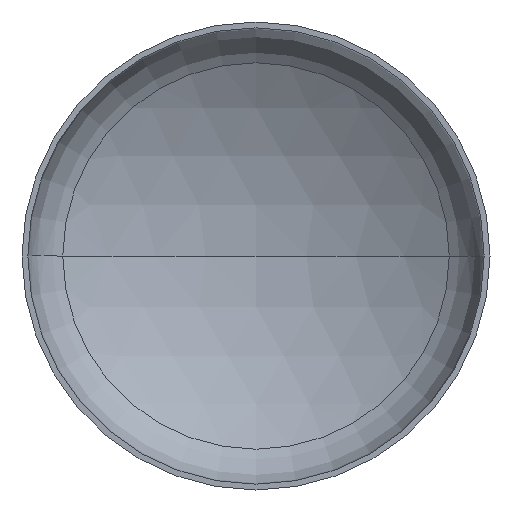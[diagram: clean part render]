
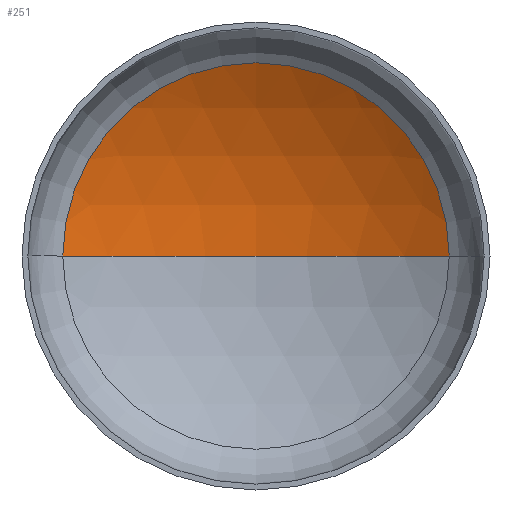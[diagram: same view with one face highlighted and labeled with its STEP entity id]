
A CAD part, front view. The second image highlights one B-rep face of the part: STEP entity #251.
In plain terms, the highlighted spherical face has radius 3600 mm.
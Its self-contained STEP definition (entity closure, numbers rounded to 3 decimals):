
#12 = AXIS2_PLACEMENT_3D ( 'NONE', #150, #244, #353 ) ;
#15 = EDGE_LOOP ( 'NONE', ( #116, #60, #44 ) ) ;
#41 = AXIS2_PLACEMENT_3D ( 'NONE', #268, #253, #237 ) ;
#44 = ORIENTED_EDGE ( 'NONE', *, *, #107, .T. ) ;
#46 = DIRECTION ( 'NONE',  ( -1., 0., 0. ) ) ;
#48 = VERTEX_POINT ( 'NONE', #350 ) ;
#49 = VERTEX_POINT ( 'NONE', #283 ) ;
#54 = AXIS2_PLACEMENT_3D ( 'NONE', #352, #58, #46 ) ;
#55 = AXIS2_PLACEMENT_3D ( 'NONE', #195, #380, #247 ) ;
#58 = DIRECTION ( 'NONE',  ( 0., 0., -1. ) ) ;
#60 = ORIENTED_EDGE ( 'NONE', *, *, #124, .T. ) ;
#87 = VERTEX_POINT ( 'NONE', #235 ) ;
#107 = EDGE_CURVE ( 'NONE', #87, #48, #209, .T. ) ;
#116 = ORIENTED_EDGE ( 'NONE', *, *, #336, .F. ) ;
#124 = EDGE_CURVE ( 'NONE', #49, #87, #145, .T. ) ;
#139 = FACE_OUTER_BOUND ( 'NONE', #15, .T. ) ;
#145 = CIRCLE ( 'NONE', #54, 3600. ) ;
#150 = CARTESIAN_POINT ( 'NONE',  ( 0., -2368.378, 0. ) ) ;
#195 = CARTESIAN_POINT ( 'NONE',  ( 0., 715.326, 0. ) ) ;
#209 = CIRCLE ( 'NONE', #55, 1857.625 ) ;
#235 = CARTESIAN_POINT ( 'NONE',  ( 1857.625, 715.326, 0. ) ) ;
#237 = DIRECTION ( 'NONE',  ( -1., 0., 0. ) ) ;
#244 = DIRECTION ( 'NONE',  ( 0., 0., 1. ) ) ;
#247 = DIRECTION ( 'NONE',  ( 1., 0., 0. ) ) ;
#251 = ADVANCED_FACE ( 'NONE', ( #139 ), #259, .F. ) ;
#253 = DIRECTION ( 'NONE',  ( 0., 0., -1. ) ) ;
#259 = SPHERICAL_SURFACE ( 'NONE', #41, 3600. ) ;
#268 = CARTESIAN_POINT ( 'NONE',  ( 0., -2368.378, 0. ) ) ;
#283 = CARTESIAN_POINT ( 'NONE',  ( 0., 1231.622, 0. ) ) ;
#336 = EDGE_CURVE ( 'NONE', #49, #48, #349, .T. ) ;
#349 = CIRCLE ( 'NONE', #12, 3600. ) ;
#350 = CARTESIAN_POINT ( 'NONE',  ( -1857.625, 715.326, 0. ) ) ;
#352 = CARTESIAN_POINT ( 'NONE',  ( 0., -2368.378, 0. ) ) ;
#353 = DIRECTION ( 'NONE',  ( 1., 0., 0. ) ) ;
#380 = DIRECTION ( 'NONE',  ( 0., -1., 0. ) ) ;
